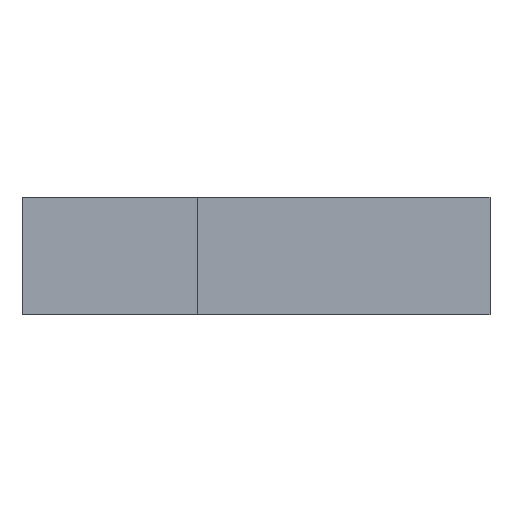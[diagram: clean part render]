
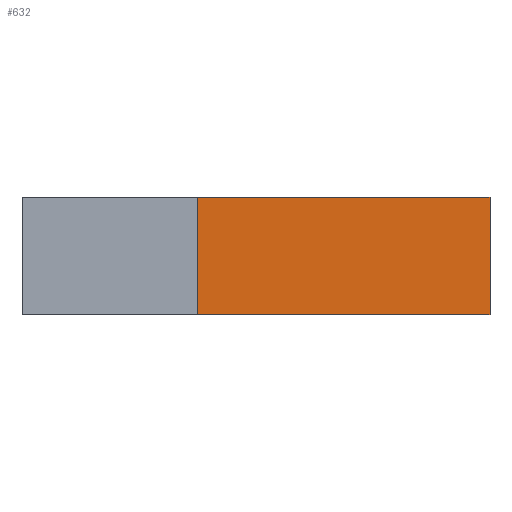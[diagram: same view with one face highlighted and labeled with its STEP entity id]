
A CAD part, left-side view. The second image highlights one B-rep face of the part: STEP entity #632.
In plain terms, the highlighted planar face has unit normal (-1, 0, 0).
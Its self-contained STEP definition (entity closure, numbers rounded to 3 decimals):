
#131=FACE_OUTER_BOUND('',#182,.T.);
#182=EDGE_LOOP('',(#483,#484,#485,#486));
#263=LINE('',#1019,#299);
#265=LINE('',#1023,#301);
#267=LINE('',#1027,#303);
#269=LINE('',#1040,#305);
#299=VECTOR('',#807,10.);
#301=VECTOR('',#811,10.);
#303=VECTOR('',#815,10.);
#305=VECTOR('',#829,10.);
#334=VERTEX_POINT('',#1016);
#335=VERTEX_POINT('',#1018);
#336=VERTEX_POINT('',#1022);
#337=VERTEX_POINT('',#1026);
#393=EDGE_CURVE('',#335,#334,#263,.T.);
#395=EDGE_CURVE('',#336,#335,#265,.T.);
#397=EDGE_CURVE('',#337,#336,#267,.T.);
#404=EDGE_CURVE('',#337,#334,#269,.T.);
#483=ORIENTED_EDGE('',*,*,#397,.T.);
#484=ORIENTED_EDGE('',*,*,#395,.T.);
#485=ORIENTED_EDGE('',*,*,#393,.T.);
#486=ORIENTED_EDGE('',*,*,#404,.F.);
#603=PLANE('',#719);
#632=ADVANCED_FACE('',(#131),#603,.T.);
#719=AXIS2_PLACEMENT_3D('',#1041,#830,#831);
#807=DIRECTION('',(0.,0.,1.));
#811=DIRECTION('',(0.,-1.,0.));
#815=DIRECTION('',(0.,0.,-1.));
#829=DIRECTION('',(0.,-1.,0.));
#830=DIRECTION('center_axis',(-1.,0.,0.));
#831=DIRECTION('ref_axis',(0.,-1.,0.));
#1016=CARTESIAN_POINT('',(-96.957,-20.,10.));
#1018=CARTESIAN_POINT('',(-96.957,-20.,0.));
#1019=CARTESIAN_POINT('',(-96.957,-20.,0.));
#1022=CARTESIAN_POINT('',(-96.957,5.,0.));
#1023=CARTESIAN_POINT('',(-96.957,20.,0.));
#1026=CARTESIAN_POINT('',(-96.957,5.,10.));
#1027=CARTESIAN_POINT('',(-96.957,5.,2.5));
#1040=CARTESIAN_POINT('',(-96.957,20.,10.));
#1041=CARTESIAN_POINT('Origin',(-96.957,20.,0.));
